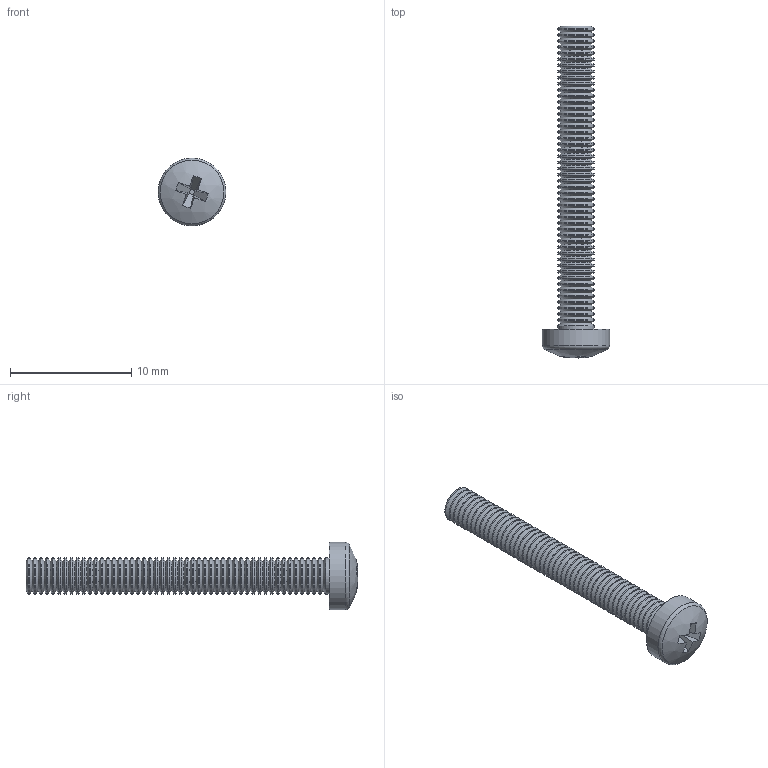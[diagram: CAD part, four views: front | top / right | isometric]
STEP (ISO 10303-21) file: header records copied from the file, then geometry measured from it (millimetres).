
FILE_DESCRIPTION(/* description */ ('STEP AP242 Edition 2','CAx-IF Rec.Pracs.---Representation and Presentation of Product Manufacturing Information (PMI)---4.0---2014-10-13','CAx-IF Rec.Pracs.---3D Tessellated Geometry---0.4---2014-09-14','2;1','CAx-IF Rec.Pracs.---User Defined Attributes---1.5---2016-08-15'),/* implementation_level */ '2;1');
FILE_NAME(/* name */ 'Assembly 1 - Body14 (4)',/* time_stamp */ '2026-09-25T20:07:12Z',/* author */ (''),/* organization */ (''),/* preprocessor_version */ 'ST-DEVELOPER v20',/* originating_system */ 'ONSHAPE BY PTC INC, 1.221',/* authorisation */ ' ');
FILE_SCHEMA (('AP242_MANAGED_MODEL_BASED_3D_ENGINEERING_MIM_LF { 1 0 10303 442 3 1 4 }'));
Length unit declared in the file: metre
Products named in the file (1): Body14
Bounding box: 5.6 x 27.37 x 5.6 mm (x, y, z)
Volume: 198.9 mm3; surface area: 425.5 mm2
Topology: 1 solids, 1 shells, 167 faces, 430 edges, 267 vertices
Faces by surface type: cone 99, cylinder 51, plane 15, sphere 1, torus 1
Full cylindrical faces by diameter (mm): 3 x50, 5.6 x1
Entity records: 3442 total; most frequent: DIRECTION 658, CARTESIAN_POINT 554, ORIENTED_EDGE 362, AXIS2_PLACEMENT_3D 321, EDGE_LOOP 320, FACE_BOUND 320, EDGE_CURVE 181, VERTEX_POINT 169
